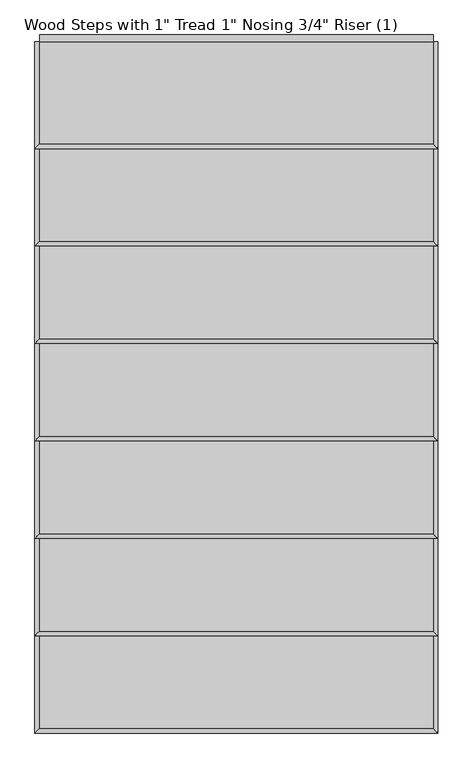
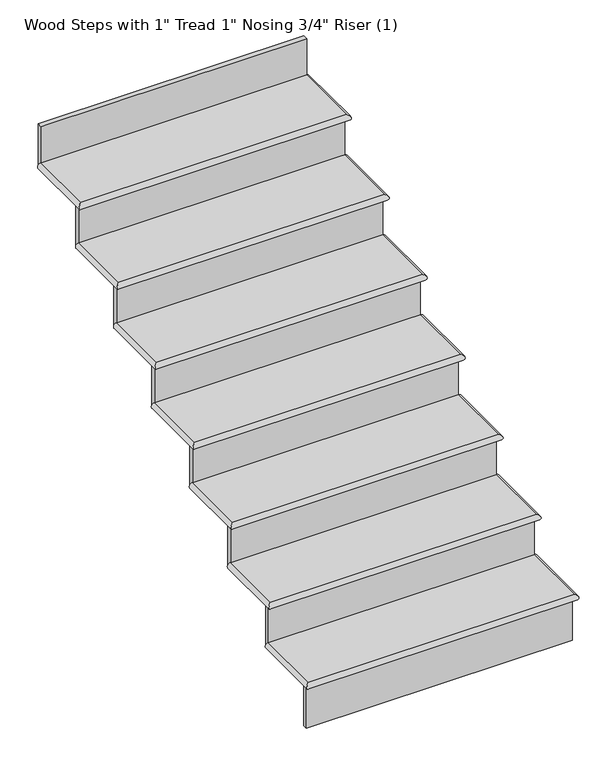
"""IFC4 building model written with IfcOpenShell, lengths in millimetres: stair flight geometry."""

from ifc_helpers import new_model, si_unit, frame, origin, place, context, project, spatial, circle_curve, ellipse_curve, faceted_brep, source, transform, mapped, element, save
from ifc_brep_helpers import plane_surface, cylinder_surface, advanced_brep


def stair_flight_97057132(model_context):
    return source(origin(), model_context, "Body", "SolidModel", [
        advanced_brep(
        [(-10530.0054092, -2970.5234188, 1811.6176471), (-11608.6970616, -2970.5234188, 1811.6176471), (-11608.6970616, -3249.9234188, 1811.6176471), (-10530.0054092, -3249.9234188, 1811.6176471), (-11608.6970616, -2970.5234188, 1786.2176471), (-10530.0054092, -2970.5234188, 1786.2176471), (-10530.0054092, -3249.9234188, 1786.2176471), (-11608.6970616, -3249.9234188, 1786.2176471)],
        [
            (0, 1),
            (1, 2),
            (2, 3),
            (3, 0),
            (4, 5),
            (5, 6),
            (6, 7),
            (7, 4),
            (0, 5, circle_curve(frame((-10530.0054092, -2970.5234188, 1798.9176471), z_axis=(0.0, 1.0, 0.0), x_axis=(-1.0, 0.0, 0.0)), 12.7)),
            (4, 1, circle_curve(frame((-11608.6970616, -2970.5234188, 1798.9176471), z_axis=(0.0, 1.0, 0.0), x_axis=(1.0, 0.0, 0.0)), 12.7)),
            (3, 6, ellipse_curve(frame((-10530.0054092, -3249.9234188, 1798.9176471), z_axis=(0.7071067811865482, 0.7071067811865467, 0.0), x_axis=(-0.7071067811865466, 0.7071067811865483, 0.0)), 17.9605122, 12.7)),
            (2, 7, ellipse_curve(frame((-11608.6970616, -3249.9234188, 1798.9176471), z_axis=(0.7071067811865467, -0.7071067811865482, 0.0), x_axis=(0.7071067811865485, 0.7071067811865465, 0.0)), 17.9605122, 12.7)),
        ],
        [
            plane_surface(frame((-11608.6970616, -3262.6234188, 1811.6176471), z_axis=(0.0, 0.0, 1.0), x_axis=(0.0, -1.0, 0.0))),
            plane_surface(frame((-11608.6970616, -3262.6234188, 1786.2176471), z_axis=(0.0, 0.0, -1.0), x_axis=(0.0, 1.0, 0.0))),
            plane_surface(frame((-10530.0054092, -2970.5234188, 1811.6176471), z_axis=(0.0, 1.0, 0.0), x_axis=(0.0, 0.0, -1.0))),
            cylinder_surface(frame((-10530.0054092, -2970.5234188, 1798.9176471), z_axis=(0.0, 1.0, 0.0), x_axis=(-1.0, 0.0, 0.0)), 12.7),
            cylinder_surface(frame((-10530.0054092, -3249.9234188, 1798.9176471), z_axis=(1.0, 0.0, 0.0), x_axis=(0.0, 1.0, 0.0)), 12.7),
            cylinder_surface(frame((-11608.6970616, -3249.9234188, 1798.9176471), z_axis=(0.0, -1.0, 0.0), x_axis=(1.0, 0.0, 0.0)), 12.7),
        ],
        [
            (0, [[1, 2, 3, 4]]),
            (1, [[5, 6, 7, 8]]),
            (2, [[-1, 9, -5, 10]]),
            (3, [[-9, -4, 11, -6]]),
            (4, [[-11, -3, 12, -7]]),
            (5, [[-12, -2, -10, -8]]),
        ],
    ),
        faceted_brep([(-10530.0054092, -3237.2234188, 1786.2176471), (-10530.0054092, -3237.2234188, 1605.0558824), (-10530.0054092, -3218.1734188, 1605.0558824), (-10530.0054092, -3218.1734188, 1786.2176471), (-11608.6970616, -3237.2234188, 1786.2176471), (-11608.6970616, -3218.1734188, 1786.2176471), (-11608.6970616, -3218.1734188, 1605.0558824), (-11608.6970616, -3237.2234188, 1605.0558824)], [[[0, 1, 2, 3]], [[4, 5, 6, 7]], [[1, 0, 4, 7]], [[2, 1, 7, 6]], [[3, 2, 6, 5]], [[0, 3, 5, 4]]]),
        advanced_brep(
        [(-10530.0054092, -2703.8234188, 1992.7794118), (-11608.6970616, -2703.8234188, 1992.7794118), (-11608.6970616, -2983.2234188, 1992.7794118), (-10530.0054092, -2983.2234188, 1992.7794118), (-11608.6970616, -2703.8234188, 1967.3794118), (-10530.0054092, -2703.8234188, 1967.3794118), (-10530.0054092, -2983.2234188, 1967.3794118), (-11608.6970616, -2983.2234188, 1967.3794118)],
        [
            (0, 1),
            (1, 2),
            (2, 3),
            (3, 0),
            (4, 5),
            (5, 6),
            (6, 7),
            (7, 4),
            (0, 5, circle_curve(frame((-10530.0054092, -2703.8234188, 1980.0794118), z_axis=(0.0, 1.0, 0.0), x_axis=(-1.0, 0.0, 0.0)), 12.7)),
            (4, 1, circle_curve(frame((-11608.6970616, -2703.8234188, 1980.0794118), z_axis=(0.0, 1.0, 0.0), x_axis=(1.0, 0.0, 0.0)), 12.7)),
            (3, 6, ellipse_curve(frame((-10530.0054092, -2983.2234188, 1980.0794118), z_axis=(0.7071067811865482, 0.7071067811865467, 0.0), x_axis=(-0.7071067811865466, 0.7071067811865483, 0.0)), 17.9605122, 12.7)),
            (2, 7, ellipse_curve(frame((-11608.6970616, -2983.2234188, 1980.0794118), z_axis=(0.7071067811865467, -0.7071067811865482, 0.0), x_axis=(0.7071067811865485, 0.7071067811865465, 0.0)), 17.9605122, 12.7)),
        ],
        [
            plane_surface(frame((-11608.6970616, -3262.6234188, 1992.7794118), z_axis=(0.0, 0.0, 1.0), x_axis=(0.0, -1.0, 0.0))),
            plane_surface(frame((-11608.6970616, -3262.6234188, 1967.3794118), z_axis=(0.0, 0.0, -1.0), x_axis=(0.0, 1.0, 0.0))),
            plane_surface(frame((-10530.0054092, -2703.8234188, 1992.7794118), z_axis=(0.0, 1.0, 0.0), x_axis=(0.0, 0.0, -1.0))),
            cylinder_surface(frame((-10530.0054092, -2703.8234188, 1980.0794118), z_axis=(0.0, 1.0, 0.0), x_axis=(-1.0, 0.0, 0.0)), 12.7),
            cylinder_surface(frame((-10530.0054092, -2983.2234188, 1980.0794118), z_axis=(1.0, 0.0, 0.0), x_axis=(0.0, 1.0, 0.0)), 12.7),
            cylinder_surface(frame((-11608.6970616, -2983.2234188, 1980.0794118), z_axis=(0.0, -1.0, 0.0), x_axis=(1.0, 0.0, 0.0)), 12.7),
        ],
        [
            (0, [[1, 2, 3, 4]]),
            (1, [[5, 6, 7, 8]]),
            (2, [[-1, 9, -5, 10]]),
            (3, [[-9, -4, 11, -6]]),
            (4, [[-11, -3, 12, -7]]),
            (5, [[-12, -2, -10, -8]]),
        ],
    ),
        faceted_brep([(-10530.0054092, -2970.5234188, 1967.3794118), (-10530.0054092, -2970.5234188, 1786.2176471), (-10530.0054092, -2951.4734188, 1786.2176471), (-10530.0054092, -2951.4734188, 1967.3794118), (-11608.6970616, -2970.5234188, 1967.3794118), (-11608.6970616, -2951.4734188, 1967.3794118), (-11608.6970616, -2951.4734188, 1786.2176471), (-11608.6970616, -2970.5234188, 1786.2176471)], [[[0, 1, 2, 3]], [[4, 5, 6, 7]], [[1, 0, 4, 7]], [[2, 1, 7, 6]], [[3, 2, 6, 5]], [[0, 3, 5, 4]]]),
        advanced_brep(
        [(-10530.0054092, -2437.1234188, 2173.9411765), (-11608.6970616, -2437.1234188, 2173.9411765), (-11608.6970616, -2716.5234188, 2173.9411765), (-10530.0054092, -2716.5234188, 2173.9411765), (-11608.6970616, -2437.1234188, 2148.5411765), (-10530.0054092, -2437.1234188, 2148.5411765), (-10530.0054092, -2716.5234188, 2148.5411765), (-11608.6970616, -2716.5234188, 2148.5411765)],
        [
            (0, 1),
            (1, 2),
            (2, 3),
            (3, 0),
            (4, 5),
            (5, 6),
            (6, 7),
            (7, 4),
            (0, 5, circle_curve(frame((-10530.0054092, -2437.1234188, 2161.2411765), z_axis=(0.0, 1.0, 0.0), x_axis=(-1.0, 0.0, 0.0)), 12.7)),
            (4, 1, circle_curve(frame((-11608.6970616, -2437.1234188, 2161.2411765), z_axis=(0.0, 1.0, 0.0), x_axis=(1.0, 0.0, 0.0)), 12.7)),
            (3, 6, ellipse_curve(frame((-10530.0054092, -2716.5234188, 2161.2411765), z_axis=(0.707106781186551, 0.7071067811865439, 0.0), x_axis=(-0.7071067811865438, 0.7071067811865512, 0.0)), 17.9605122, 12.7)),
            (2, 7, ellipse_curve(frame((-11608.6970616, -2716.5234188, 2161.2411765), z_axis=(0.7071067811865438, -0.7071067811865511, 0.0), x_axis=(0.7071067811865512, 0.7071067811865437, 0.0)), 17.9605122, 12.7)),
        ],
        [
            plane_surface(frame((-11608.6970616, -3262.6234188, 2173.9411765), z_axis=(0.0, 0.0, 1.0), x_axis=(0.0, -1.0, 0.0))),
            plane_surface(frame((-11608.6970616, -3262.6234188, 2148.5411765), z_axis=(0.0, 0.0, -1.0), x_axis=(0.0, 1.0, 0.0))),
            plane_surface(frame((-10530.0054092, -2437.1234188, 2173.9411765), z_axis=(0.0, 1.0, 0.0), x_axis=(0.0, 0.0, -1.0))),
            cylinder_surface(frame((-10530.0054092, -2437.1234188, 2161.2411765), z_axis=(0.0, 1.0, 0.0), x_axis=(-1.0, 0.0, 0.0)), 12.7),
            cylinder_surface(frame((-10530.0054092, -2716.5234188, 2161.2411765), z_axis=(1.0, 0.0, 0.0), x_axis=(0.0, 1.0, 0.0)), 12.7),
            cylinder_surface(frame((-11608.6970616, -2716.5234188, 2161.2411765), z_axis=(0.0, -1.0, 0.0), x_axis=(1.0, 0.0, 0.0)), 12.7),
        ],
        [
            (0, [[1, 2, 3, 4]]),
            (1, [[5, 6, 7, 8]]),
            (2, [[-1, 9, -5, 10]]),
            (3, [[-9, -4, 11, -6]]),
            (4, [[-11, -3, 12, -7]]),
            (5, [[-12, -2, -10, -8]]),
        ],
    ),
        faceted_brep([(-10530.0054092, -2703.8234188, 2148.5411765), (-10530.0054092, -2703.8234188, 1967.3794118), (-10530.0054092, -2684.7734188, 1967.3794118), (-10530.0054092, -2684.7734188, 2148.5411765), (-11608.6970616, -2703.8234188, 2148.5411765), (-11608.6970616, -2684.7734188, 2148.5411765), (-11608.6970616, -2684.7734188, 1967.3794118), (-11608.6970616, -2703.8234188, 1967.3794118)], [[[0, 1, 2, 3]], [[4, 5, 6, 7]], [[1, 0, 4, 7]], [[2, 1, 7, 6]], [[3, 2, 6, 5]], [[0, 3, 5, 4]]]),
        advanced_brep(
        [(-10530.0054092, -2170.4234188, 2355.1029412), (-11608.6970616, -2170.4234188, 2355.1029412), (-11608.6970616, -2449.8234188, 2355.1029412), (-10530.0054092, -2449.8234188, 2355.1029412), (-11608.6970616, -2170.4234188, 2329.7029412), (-10530.0054092, -2170.4234188, 2329.7029412), (-10530.0054092, -2449.8234188, 2329.7029412), (-11608.6970616, -2449.8234188, 2329.7029412)],
        [
            (0, 1),
            (1, 2),
            (2, 3),
            (3, 0),
            (4, 5),
            (5, 6),
            (6, 7),
            (7, 4),
            (0, 5, circle_curve(frame((-10530.0054092, -2170.4234188, 2342.4029412), z_axis=(0.0, 1.0, 0.0), x_axis=(-1.0, 0.0, 0.0)), 12.7)),
            (4, 1, circle_curve(frame((-11608.6970616, -2170.4234188, 2342.4029412), z_axis=(0.0, 1.0, 0.0), x_axis=(1.0, 0.0, 0.0)), 12.7)),
            (3, 6, ellipse_curve(frame((-10530.0054092, -2449.8234188, 2342.4029412), z_axis=(0.7071067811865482, 0.7071067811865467, 0.0), x_axis=(-0.7071067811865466, 0.7071067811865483, 0.0)), 17.9605122, 12.7)),
            (2, 7, ellipse_curve(frame((-11608.6970616, -2449.8234188, 2342.4029412), z_axis=(0.7071067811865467, -0.7071067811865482, 0.0), x_axis=(0.7071067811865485, 0.7071067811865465, 0.0)), 17.9605122, 12.7)),
        ],
        [
            plane_surface(frame((-11608.6970616, -3262.6234188, 2355.1029412), z_axis=(0.0, 0.0, 1.0), x_axis=(0.0, -1.0, 0.0))),
            plane_surface(frame((-11608.6970616, -3262.6234188, 2329.7029412), z_axis=(0.0, 0.0, -1.0), x_axis=(0.0, 1.0, 0.0))),
            plane_surface(frame((-10530.0054092, -2170.4234188, 2355.1029412), z_axis=(0.0, 1.0, 0.0), x_axis=(0.0, 0.0, -1.0))),
            cylinder_surface(frame((-10530.0054092, -2170.4234188, 2342.4029412), z_axis=(0.0, 1.0, 0.0), x_axis=(-1.0, 0.0, 0.0)), 12.7),
            cylinder_surface(frame((-10530.0054092, -2449.8234188, 2342.4029412), z_axis=(1.0, 0.0, 0.0), x_axis=(0.0, 1.0, 0.0)), 12.7),
            cylinder_surface(frame((-11608.6970616, -2449.8234188, 2342.4029412), z_axis=(0.0, -1.0, 0.0), x_axis=(1.0, 0.0, 0.0)), 12.7),
        ],
        [
            (0, [[1, 2, 3, 4]]),
            (1, [[5, 6, 7, 8]]),
            (2, [[-1, 9, -5, 10]]),
            (3, [[-9, -4, 11, -6]]),
            (4, [[-11, -3, 12, -7]]),
            (5, [[-12, -2, -10, -8]]),
        ],
    ),
        faceted_brep([(-10530.0054092, -2437.1234188, 2329.7029412), (-10530.0054092, -2437.1234188, 2148.5411765), (-10530.0054092, -2418.0734188, 2148.5411765), (-10530.0054092, -2418.0734188, 2329.7029412), (-11608.6970616, -2437.1234188, 2329.7029412), (-11608.6970616, -2418.0734188, 2329.7029412), (-11608.6970616, -2418.0734188, 2148.5411765), (-11608.6970616, -2437.1234188, 2148.5411765)], [[[0, 1, 2, 3]], [[4, 5, 6, 7]], [[1, 0, 4, 7]], [[2, 1, 7, 6]], [[3, 2, 6, 5]], [[0, 3, 5, 4]]]),
        advanced_brep(
        [(-10530.0054092, -1903.7234188, 2536.2647059), (-11608.6970616, -1903.7234188, 2536.2647059), (-11608.6970616, -2183.1234188, 2536.2647059), (-10530.0054092, -2183.1234188, 2536.2647059), (-11608.6970616, -1903.7234188, 2510.8647059), (-10530.0054092, -1903.7234188, 2510.8647059), (-10530.0054092, -2183.1234188, 2510.8647059), (-11608.6970616, -2183.1234188, 2510.8647059)],
        [
            (0, 1),
            (1, 2),
            (2, 3),
            (3, 0),
            (4, 5),
            (5, 6),
            (6, 7),
            (7, 4),
            (0, 5, circle_curve(frame((-10530.0054092, -1903.7234188, 2523.5647059), z_axis=(0.0, 1.0, 0.0), x_axis=(-1.0, 0.0, 0.0)), 12.7)),
            (4, 1, circle_curve(frame((-11608.6970616, -1903.7234188, 2523.5647059), z_axis=(0.0, 1.0, 0.0), x_axis=(1.0, 0.0, 0.0)), 12.7)),
            (3, 6, ellipse_curve(frame((-10530.0054092, -2183.1234188, 2523.5647059), z_axis=(0.7071067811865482, 0.7071067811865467, 0.0), x_axis=(-0.7071067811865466, 0.7071067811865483, 0.0)), 17.9605122, 12.7)),
            (2, 7, ellipse_curve(frame((-11608.6970616, -2183.1234188, 2523.5647059), z_axis=(0.7071067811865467, -0.7071067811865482, 0.0), x_axis=(0.7071067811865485, 0.7071067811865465, 0.0)), 17.9605122, 12.7)),
        ],
        [
            plane_surface(frame((-11608.6970616, -3262.6234188, 2536.2647059), z_axis=(0.0, 0.0, 1.0), x_axis=(0.0, -1.0, 0.0))),
            plane_surface(frame((-11608.6970616, -3262.6234188, 2510.8647059), z_axis=(0.0, 0.0, -1.0), x_axis=(0.0, 1.0, 0.0))),
            plane_surface(frame((-10530.0054092, -1903.7234188, 2536.2647059), z_axis=(0.0, 1.0, 0.0), x_axis=(0.0, 0.0, -1.0))),
            cylinder_surface(frame((-10530.0054092, -1903.7234188, 2523.5647059), z_axis=(0.0, 1.0, 0.0), x_axis=(-1.0, 0.0, 0.0)), 12.7),
            cylinder_surface(frame((-10530.0054092, -2183.1234188, 2523.5647059), z_axis=(1.0, 0.0, 0.0), x_axis=(0.0, 1.0, 0.0)), 12.7),
            cylinder_surface(frame((-11608.6970616, -2183.1234188, 2523.5647059), z_axis=(0.0, -1.0, 0.0), x_axis=(1.0, 0.0, 0.0)), 12.7),
        ],
        [
            (0, [[1, 2, 3, 4]]),
            (1, [[5, 6, 7, 8]]),
            (2, [[-1, 9, -5, 10]]),
            (3, [[-9, -4, 11, -6]]),
            (4, [[-11, -3, 12, -7]]),
            (5, [[-12, -2, -10, -8]]),
        ],
    ),
        faceted_brep([(-10530.0054092, -2170.4234188, 2510.8647059), (-10530.0054092, -2170.4234188, 2329.7029412), (-10530.0054092, -2151.3734188, 2329.7029412), (-10530.0054092, -2151.3734188, 2510.8647059), (-11608.6970616, -2170.4234188, 2510.8647059), (-11608.6970616, -2151.3734188, 2510.8647059), (-11608.6970616, -2151.3734188, 2329.7029412), (-11608.6970616, -2170.4234188, 2329.7029412)], [[[0, 1, 2, 3]], [[4, 5, 6, 7]], [[1, 0, 4, 7]], [[2, 1, 7, 6]], [[3, 2, 6, 5]], [[0, 3, 5, 4]]]),
        advanced_brep(
        [(-10530.0054092, -1637.0234188, 2717.4264706), (-11608.6970616, -1637.0234188, 2717.4264706), (-11608.6970616, -1916.4234188, 2717.4264706), (-10530.0054092, -1916.4234188, 2717.4264706), (-11608.6970616, -1637.0234188, 2692.0264706), (-10530.0054092, -1637.0234188, 2692.0264706), (-10530.0054092, -1916.4234188, 2692.0264706), (-11608.6970616, -1916.4234188, 2692.0264706)],
        [
            (0, 1),
            (1, 2),
            (2, 3),
            (3, 0),
            (4, 5),
            (5, 6),
            (6, 7),
            (7, 4),
            (0, 5, circle_curve(frame((-10530.0054092, -1637.0234188, 2704.7264706), z_axis=(0.0, 1.0, 0.0), x_axis=(-1.0, 0.0, 0.0)), 12.7)),
            (4, 1, circle_curve(frame((-11608.6970616, -1637.0234188, 2704.7264706), z_axis=(0.0, 1.0, 0.0), x_axis=(1.0, 0.0, 0.0)), 12.7)),
            (3, 6, ellipse_curve(frame((-10530.0054092, -1916.4234188, 2704.7264706), z_axis=(0.707106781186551, 0.7071067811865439, 0.0), x_axis=(-0.7071067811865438, 0.7071067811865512, 0.0)), 17.9605122, 12.7)),
            (2, 7, ellipse_curve(frame((-11608.6970616, -1916.4234188, 2704.7264706), z_axis=(0.7071067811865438, -0.7071067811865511, 0.0), x_axis=(0.7071067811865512, 0.7071067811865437, 0.0)), 17.9605122, 12.7)),
        ],
        [
            plane_surface(frame((-11608.6970616, -3262.6234188, 2717.4264706), z_axis=(0.0, 0.0, 1.0), x_axis=(0.0, -1.0, 0.0))),
            plane_surface(frame((-11608.6970616, -3262.6234188, 2692.0264706), z_axis=(0.0, 0.0, -1.0), x_axis=(0.0, 1.0, 0.0))),
            plane_surface(frame((-10530.0054092, -1637.0234188, 2717.4264706), z_axis=(0.0, 1.0, 0.0), x_axis=(0.0, 0.0, -1.0))),
            cylinder_surface(frame((-10530.0054092, -1637.0234188, 2704.7264706), z_axis=(0.0, 1.0, 0.0), x_axis=(-1.0, 0.0, 0.0)), 12.7),
            cylinder_surface(frame((-10530.0054092, -1916.4234188, 2704.7264706), z_axis=(1.0, 0.0, 0.0), x_axis=(0.0, 1.0, 0.0)), 12.7),
            cylinder_surface(frame((-11608.6970616, -1916.4234188, 2704.7264706), z_axis=(0.0, -1.0, 0.0), x_axis=(1.0, 0.0, 0.0)), 12.7),
        ],
        [
            (0, [[1, 2, 3, 4]]),
            (1, [[5, 6, 7, 8]]),
            (2, [[-1, 9, -5, 10]]),
            (3, [[-9, -4, 11, -6]]),
            (4, [[-11, -3, 12, -7]]),
            (5, [[-12, -2, -10, -8]]),
        ],
    ),
        faceted_brep([(-10530.0054092, -1903.7234188, 2692.0264706), (-10530.0054092, -1903.7234188, 2510.8647059), (-10530.0054092, -1884.6734188, 2510.8647059), (-10530.0054092, -1884.6734188, 2692.0264706), (-11608.6970616, -1903.7234188, 2692.0264706), (-11608.6970616, -1884.6734188, 2692.0264706), (-11608.6970616, -1884.6734188, 2510.8647059), (-11608.6970616, -1903.7234188, 2510.8647059)], [[[0, 1, 2, 3]], [[4, 5, 6, 7]], [[1, 0, 4, 7]], [[2, 1, 7, 6]], [[3, 2, 6, 5]], [[0, 3, 5, 4]]]),
        advanced_brep(
        [(-10530.0054092, -1370.3234188, 2898.5882353), (-11608.6970616, -1370.3234188, 2898.5882353), (-11608.6970616, -1649.7234188, 2898.5882353), (-10530.0054092, -1649.7234188, 2898.5882353), (-11608.6970616, -1370.3234188, 2873.1882353), (-10530.0054092, -1370.3234188, 2873.1882353), (-10530.0054092, -1649.7234188, 2873.1882353), (-11608.6970616, -1649.7234188, 2873.1882353)],
        [
            (0, 1),
            (1, 2),
            (2, 3),
            (3, 0),
            (4, 5),
            (5, 6),
            (6, 7),
            (7, 4),
            (0, 5, circle_curve(frame((-10530.0054092, -1370.3234188, 2885.8882353), z_axis=(0.0, 1.0, 0.0), x_axis=(-1.0, 0.0, 0.0)), 12.7)),
            (4, 1, circle_curve(frame((-11608.6970616, -1370.3234188, 2885.8882353), z_axis=(0.0, 1.0, 0.0), x_axis=(1.0, 0.0, 0.0)), 12.7)),
            (3, 6, ellipse_curve(frame((-10530.0054092, -1649.7234188, 2885.8882353), z_axis=(0.7071067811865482, 0.7071067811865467, 0.0), x_axis=(-0.7071067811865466, 0.7071067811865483, 0.0)), 17.9605122, 12.7)),
            (2, 7, ellipse_curve(frame((-11608.6970616, -1649.7234188, 2885.8882353), z_axis=(0.7071067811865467, -0.7071067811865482, 0.0), x_axis=(0.7071067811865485, 0.7071067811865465, 0.0)), 17.9605122, 12.7)),
        ],
        [
            plane_surface(frame((-11608.6970616, -3262.6234188, 2898.5882353), z_axis=(0.0, 0.0, 1.0), x_axis=(0.0, -1.0, 0.0))),
            plane_surface(frame((-11608.6970616, -3262.6234188, 2873.1882353), z_axis=(0.0, 0.0, -1.0), x_axis=(0.0, 1.0, 0.0))),
            plane_surface(frame((-10530.0054092, -1370.3234188, 2898.5882353), z_axis=(0.0, 1.0, 0.0), x_axis=(0.0, 0.0, -1.0))),
            cylinder_surface(frame((-10530.0054092, -1370.3234188, 2885.8882353), z_axis=(0.0, 1.0, 0.0), x_axis=(-1.0, 0.0, 0.0)), 12.7),
            cylinder_surface(frame((-10530.0054092, -1649.7234188, 2885.8882353), z_axis=(1.0, 0.0, 0.0), x_axis=(0.0, 1.0, 0.0)), 12.7),
            cylinder_surface(frame((-11608.6970616, -1649.7234188, 2885.8882353), z_axis=(0.0, -1.0, 0.0), x_axis=(1.0, 0.0, 0.0)), 12.7),
        ],
        [
            (0, [[1, 2, 3, 4]]),
            (1, [[5, 6, 7, 8]]),
            (2, [[-1, 9, -5, 10]]),
            (3, [[-9, -4, 11, -6]]),
            (4, [[-11, -3, 12, -7]]),
            (5, [[-12, -2, -10, -8]]),
        ],
    ),
        faceted_brep([(-10530.0054092, -1637.0234188, 2873.1882353), (-10530.0054092, -1637.0234188, 2692.0264706), (-10530.0054092, -1617.9734188, 2692.0264706), (-10530.0054092, -1617.9734188, 2873.1882353), (-11608.6970616, -1637.0234188, 2873.1882353), (-11608.6970616, -1617.9734188, 2873.1882353), (-11608.6970616, -1617.9734188, 2692.0264706), (-11608.6970616, -1637.0234188, 2692.0264706)], [[[0, 1, 2, 3]], [[4, 5, 6, 7]], [[1, 0, 4, 7]], [[2, 1, 7, 6]], [[3, 2, 6, 5]], [[0, 3, 5, 4]]]),
        faceted_brep([(-10530.0054092, -1370.3234188, 3054.35), (-10530.0054092, -1370.3234188, 2873.1882353), (-10530.0054092, -1351.2734188, 2873.1882353), (-10530.0054092, -1351.2734188, 3054.35), (-11608.6970616, -1370.3234188, 3054.35), (-11608.6970616, -1351.2734188, 3054.35), (-11608.6970616, -1351.2734188, 2873.1882353), (-11608.6970616, -1370.3234188, 2873.1882353)], [[[0, 1, 2, 3]], [[4, 5, 6, 7]], [[1, 0, 4, 7]], [[2, 1, 7, 6]], [[3, 2, 6, 5]], [[0, 3, 5, 4]]]),
    ])


if __name__ == "__main__":
    model = new_model("IFC4")
    model_context = context("Model", 3, world=origin())
    ifc_project = project(units=[si_unit("LENGTHUNIT", "METRE", prefix="MILLI")], contexts=[model_context])
    site = spatial("IfcSite", under=ifc_project)
    building = spatial("IfcBuilding", under=site)
    placement = place(None, origin())
    stair_flight_shape = stair_flight_97057132(model_context)
    element("IfcStairFlight", 1, ObjectType="Wood Steps with 1\" Tread 1\" Nosing 3/4\" Riser (1)", at=placement, inside=building, context=model_context, shape_type="MappedRepresentation", body=[
        mapped(stair_flight_shape, transform((0.0, 0.0, 0.0), x_axis=(1.0, 0.0, 0.0), y_axis=(0.0, 1.0, 0.0), z_axis=(0.0, 0.0, 1.0))),
    ])
    save(model, "model.ifc")
